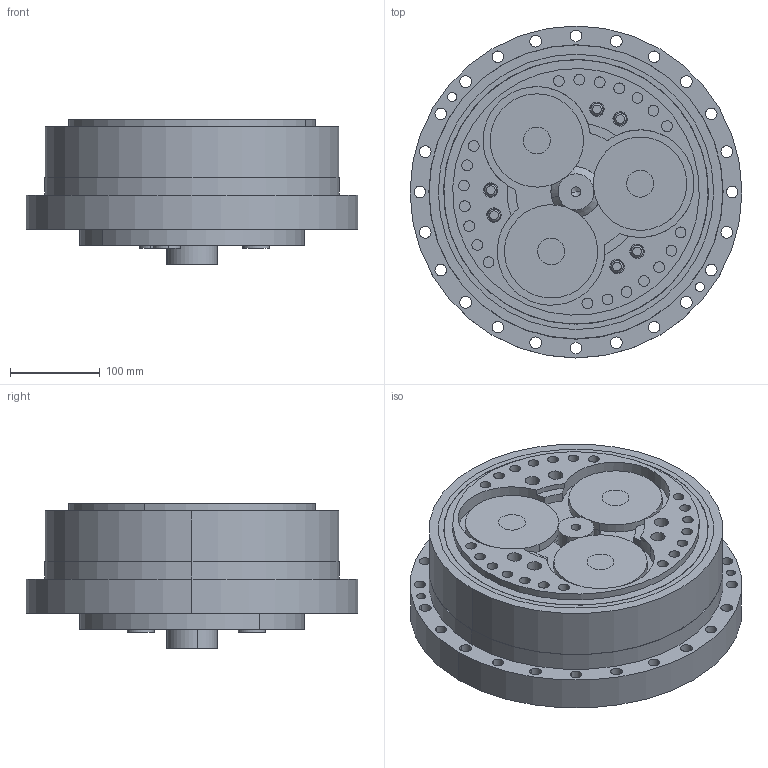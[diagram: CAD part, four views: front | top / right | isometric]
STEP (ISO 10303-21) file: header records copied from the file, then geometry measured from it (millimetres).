
FILE_DESCRIPTION (( 'STEP AP214' ), '1' );
FILE_NAME ('450E啊盄渀謫熬厒儂[BRV450E101].step', '2020-06-20T09:24:29', ( '' ), ( '' ), 'SwSTEP 2.0', 'SolidWorks 2016', '' );
FILE_SCHEMA (( 'AUTOMOTIVE_DESIGN' ));
Length unit declared in the file: millimetre
Products named in the file (1): 450E啊盄渀謫熬厒儂[BRV450E101]
Bounding box: 370 x 370 x 161 mm (x, y, z)
Volume: 11267297.1 mm3; surface area: 1061354.5 mm2
Topology: 21 solids, 21 shells, 714 faces, 1764 edges, 1159 vertices
Faces by surface type: cylinder 320, plane 279, bspline 63, cone 28, torus 24
Entity records: 31270 total; most frequent: CARTESIAN_POINT 5967, DIRECTION 3550, ORIENTED_EDGE 3500, EDGE_CURVE 1750, AXIS2_PLACEMENT_3D 1346, VERTEX_POINT 1159, EDGE_LOOP 905, VECTOR 858
